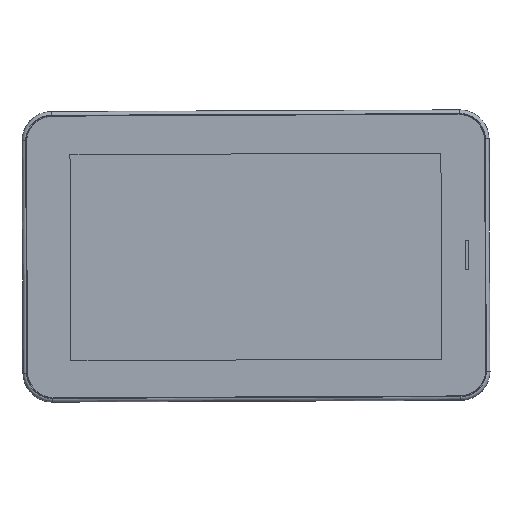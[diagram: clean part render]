
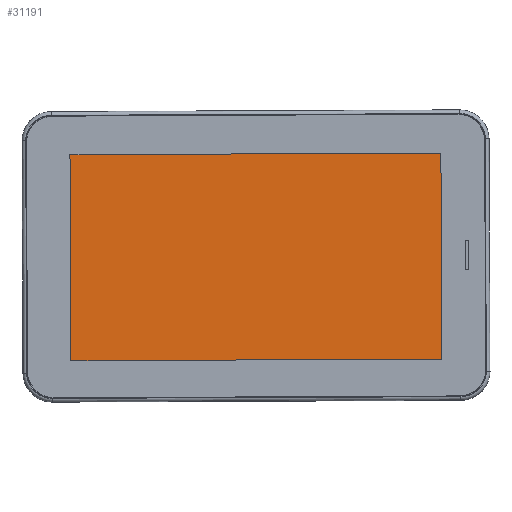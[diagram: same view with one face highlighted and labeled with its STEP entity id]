
A CAD part, front view. The second image highlights one B-rep face of the part: STEP entity #31191.
In plain terms, the highlighted planar face has unit normal (0, -1, 0).
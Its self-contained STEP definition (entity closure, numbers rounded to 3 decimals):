
#1983 = CARTESIAN_POINT ( 'NONE',  ( 0.005, -0.24, 23.217 ) ) ;
#8620 = CARTESIAN_POINT ( 'NONE',  ( 76.858, -0.24, -19.368 ) ) ;
#8986 = ORIENTED_EDGE ( 'NONE', *, *, #29076, .T. ) ;
#16117 = EDGE_CURVE ( 'NONE', #67494, #72185, #77202, .T. ) ;
#27506 = EDGE_CURVE ( 'NONE', #72185, #82829, #47378, .T. ) ;
#29076 = EDGE_CURVE ( 'NONE', #82829, #96225, #35013, .T. ) ;
#29105 = EDGE_CURVE ( 'NONE', #96225, #67494, #80469, .T. ) ;
#29254 = ORIENTED_EDGE ( 'NONE', *, *, #27506, .T. ) ;
#29976 = AXIS2_PLACEMENT_3D ( 'NONE', #1983, #53486, #90570 ) ;
#31191 = ADVANCED_FACE ( 'NONE', ( #43646 ), #77081, .T. ) ;
#31488 = DIRECTION ( 'NONE',  ( -1., 0., -0.005 ) ) ;
#31784 = CARTESIAN_POINT ( 'NONE',  ( 76.453, -0.24, 65.831 ) ) ;
#35013 = LINE ( 'NONE', #96927, #50911 ) ;
#37173 = CARTESIAN_POINT ( 'NONE',  ( 76.858, -0.24, -19.368 ) ) ;
#43646 = FACE_OUTER_BOUND ( 'NONE', #75453, .T. ) ;
#47378 = LINE ( 'NONE', #106592, #92737 ) ;
#49077 = VECTOR ( 'NONE', #104037, 1000. ) ;
#50911 = VECTOR ( 'NONE', #105682, 1000. ) ;
#53486 = DIRECTION ( 'NONE',  ( 0., -1., 0. ) ) ;
#55368 = CARTESIAN_POINT ( 'NONE',  ( -76.945, -0.24, 65.102 ) ) ;
#63123 = VECTOR ( 'NONE', #64001, 1000. ) ;
#64001 = DIRECTION ( 'NONE',  ( 1., 0., 0.005 ) ) ;
#67494 = VERTEX_POINT ( 'NONE', #8620 ) ;
#69532 = CARTESIAN_POINT ( 'NONE',  ( 76.858, -0.24, -19.368 ) ) ;
#70574 = ORIENTED_EDGE ( 'NONE', *, *, #29105, .T. ) ;
#72185 = VERTEX_POINT ( 'NONE', #31784 ) ;
#72688 = ORIENTED_EDGE ( 'NONE', *, *, #16117, .T. ) ;
#75453 = EDGE_LOOP ( 'NONE', ( #72688, #29254, #8986, #70574 ) ) ;
#76720 = CARTESIAN_POINT ( 'NONE',  ( -76.54, -0.24, -20.097 ) ) ;
#77081 = PLANE ( 'NONE',  #29976 ) ;
#77202 = LINE ( 'NONE', #69532, #49077 ) ;
#80469 = LINE ( 'NONE', #37173, #63123 ) ;
#82829 = VERTEX_POINT ( 'NONE', #55368 ) ;
#90570 = DIRECTION ( 'NONE',  ( -1., 0., -0.005 ) ) ;
#92737 = VECTOR ( 'NONE', #31488, 1000. ) ;
#96225 = VERTEX_POINT ( 'NONE', #76720 ) ;
#96927 = CARTESIAN_POINT ( 'NONE',  ( -76.54, -0.24, -20.097 ) ) ;
#104037 = DIRECTION ( 'NONE',  ( -0.005, 0., 1. ) ) ;
#105682 = DIRECTION ( 'NONE',  ( 0.005, 0., -1. ) ) ;
#106592 = CARTESIAN_POINT ( 'NONE',  ( 76.453, -0.24, 65.831 ) ) ;
